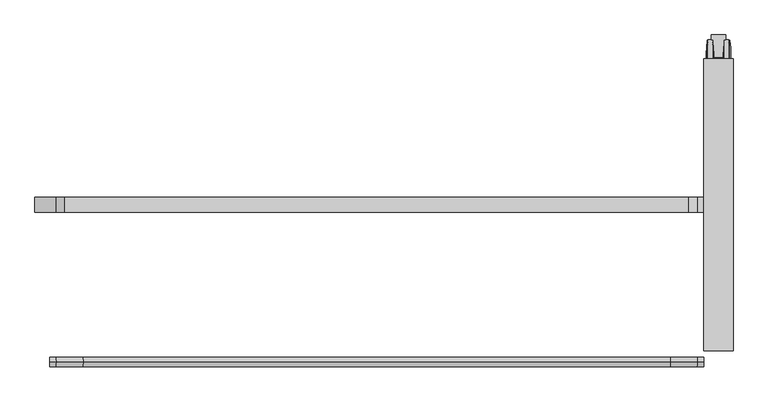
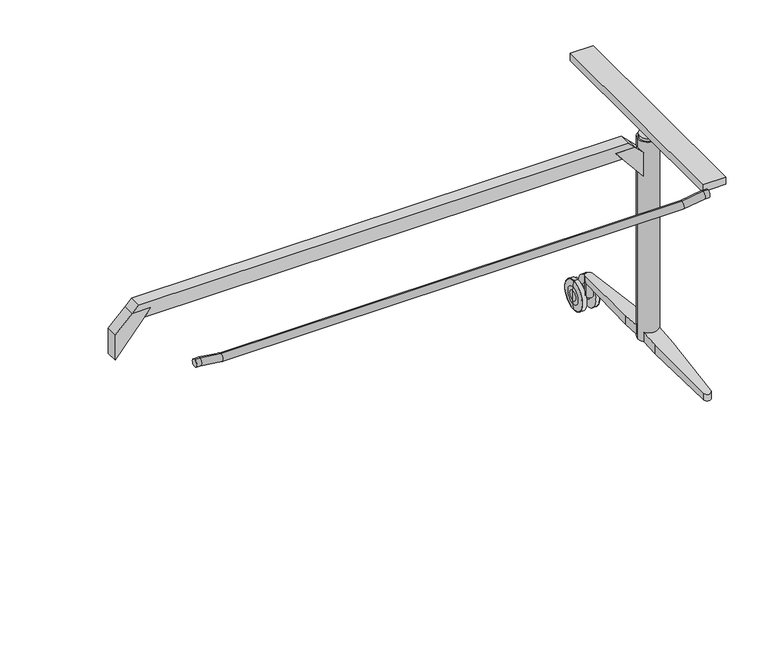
"""IFC4 building model written with IfcOpenShell, lengths in millimetres: furniture geometry, Table_Foldable_Wilkhahn_TimetableLift_Whiteboard : 1600w x 800d (615/10)."""

from ifc_helpers import new_model, si_unit, point, frame, frame_2d, origin, place, context, project, spatial, polyline, circle_curve, ellipse_curve, trimmed, segment, composite_curve, outline, extrude, source, transform, mapped, element, save
from ifc_brep_helpers import plane_surface, cylinder_surface, revolved_surface, advanced_brep


def furniture_d98f3108(model_context):
    return source(origin(), model_context, "Body", "SolidModel", [
        advanced_brep(
        [(670.4530674, 420.9511544, 26.9613134), (670.4530674, 420.9511544, 53.0387194), (670.4530674, 420.9511544, 40.0000164), (672.5845915, 420.9511544, 0.8972162), (672.5845915, 420.9511544, 79.1028166), (671.0121742, 420.9511544, 63.8876748), (671.0121742, 420.9511544, 16.1123581), (683.5439759, 420.9511544, 1.43e-05), (683.5439759, 420.9511544, 80.0000185), (673.5792938, 420.9511544, 80.0000185), (673.5792938, 420.9511544, 1.43e-05), (685.4530966, 420.9511544, 20.9999281), (685.4530966, 420.9511544, 59.0001048), (685.4530966, 420.9511544, 32.3463502), (685.4530966, 420.9511544, 47.6536826), (705.3531174, 420.9511544, 32.3463502), (705.3531174, 420.9511544, 47.6536826), (705.3531174, 420.9511544, 20.9999281), (705.3531174, 420.9511544, 59.0001048), (707.2622381, 420.9511544, 1.43e-05), (707.2622381, 420.9511544, 80.0000185), (716.3249398, 420.9511544, 1.43e-05), (716.3249398, 420.9511544, 80.0000185), (719.7942336, 420.9511544, 16.1142331), (719.7942336, 420.9511544, 63.8857997), (718.3143443, 420.9511544, 78.2056147), (718.3143443, 420.9511544, 1.7944182), (720.3531466, 420.9511544, 40.0000164), (720.3531466, 420.9511544, 53.0406045), (720.3531466, 420.9511544, 26.9594284)],
        [
            (0, 1, circle_curve(frame((670.4530674, 420.9511544, 40.0000164), z_axis=(-1.0, 0.0, 0.0), x_axis=(0.0, 0.0, 1.0)), 13.038703)),
            (1, 2),
            (2, 0),
            (1, 0, circle_curve(frame((670.4530674, 420.9511544, 40.0000164), z_axis=(-1.0, 0.0, 0.0), x_axis=(0.0, 0.0, 1.0)), 13.038703)),
            (3, 4, circle_curve(frame((672.5845915, 420.9511544, 40.0000164), z_axis=(-1.0, 0.0, 0.0), x_axis=(0.0, 0.0, 1.0)), 39.1028002)),
            (4, 5),
            (5, 6, circle_curve(frame((671.0121742, 420.9511544, 40.0000164), z_axis=(1.0, 0.0, 0.0), x_axis=(0.0, 0.0, 1.0)), 23.8876584)),
            (6, 3),
            (4, 3, circle_curve(frame((672.5845915, 420.9511544, 40.0000164), z_axis=(-1.0, 0.0, 0.0), x_axis=(0.0, 0.0, 1.0)), 39.1028002)),
            (6, 5, circle_curve(frame((671.0121742, 420.9511544, 40.0000164), z_axis=(1.0, 0.0, 0.0), x_axis=(0.0, 0.0, 1.0)), 23.8876584)),
            (7, 8, circle_curve(frame((683.5439759, 420.9511544, 40.0000164), z_axis=(-1.0, 0.0, 0.0), x_axis=(0.0, 0.0, 1.0)), 40.0000021)),
            (8, 9),
            (9, 10, circle_curve(frame((673.5792938, 420.9511544, 40.0000164), z_axis=(1.0, 0.0, 0.0), x_axis=(0.0, 0.0, 1.0)), 40.0000021)),
            (10, 7),
            (8, 7, circle_curve(frame((683.5439759, 420.9511544, 40.0000164), z_axis=(-1.0, 0.0, 0.0), x_axis=(0.0, 0.0, 1.0)), 40.0000021)),
            (10, 9, circle_curve(frame((673.5792938, 420.9511544, 40.0000164), z_axis=(1.0, 0.0, 0.0), x_axis=(0.0, 0.0, 1.0)), 40.0000021)),
            (11, 12, circle_curve(frame((685.4530966, 420.9511544, 40.0000164), z_axis=(-1.0, 0.0, 0.0), x_axis=(0.0, 0.0, 1.0)), 19.0000883)),
            (12, 8),
            (7, 11),
            (12, 11, circle_curve(frame((685.4530966, 420.9511544, 40.0000164), z_axis=(-1.0, 0.0, 0.0), x_axis=(0.0, 0.0, 1.0)), 19.0000883)),
            (13, 14, circle_curve(frame((685.4530966, 420.9511544, 40.0000164), z_axis=(-1.0, 0.0, 0.0), x_axis=(0.0, 0.0, 1.0)), 7.6536662)),
            (14, 12),
            (11, 13),
            (14, 13, circle_curve(frame((685.4530966, 420.9511544, 40.0000164), z_axis=(-1.0, 0.0, 0.0), x_axis=(0.0, 0.0, 1.0)), 7.6536662)),
            (15, 16, circle_curve(frame((705.3531174, 420.9511544, 40.0000164), z_axis=(-1.0, 0.0, 0.0), x_axis=(0.0, 0.0, 1.0)), 7.6536662)),
            (16, 14),
            (13, 15),
            (16, 15, circle_curve(frame((705.3531174, 420.9511544, 40.0000164), z_axis=(-1.0, 0.0, 0.0), x_axis=(0.0, 0.0, 1.0)), 7.6536662)),
            (17, 18, circle_curve(frame((705.3531174, 420.9511544, 40.0000164), z_axis=(-1.0, 0.0, 0.0), x_axis=(0.0, 0.0, 1.0)), 19.0000883)),
            (18, 16),
            (15, 17),
            (18, 17, circle_curve(frame((705.3531174, 420.9511544, 40.0000164), z_axis=(-1.0, 0.0, 0.0), x_axis=(0.0, 0.0, 1.0)), 19.0000883)),
            (19, 20, circle_curve(frame((707.2622381, 420.9511544, 40.0000164), z_axis=(-1.0, 0.0, 0.0), x_axis=(0.0, 0.0, 1.0)), 40.0000021)),
            (20, 18),
            (17, 19),
            (20, 19, circle_curve(frame((707.2622381, 420.9511544, 40.0000164), z_axis=(-1.0, 0.0, 0.0), x_axis=(0.0, 0.0, 1.0)), 40.0000021)),
            (21, 22, circle_curve(frame((716.3249398, 420.9511544, 40.0000164), z_axis=(-1.0, 0.0, 0.0), x_axis=(0.0, 0.0, 1.0)), 40.0000021)),
            (22, 20),
            (19, 21),
            (22, 21, circle_curve(frame((716.3249398, 420.9511544, 40.0000164), z_axis=(-1.0, 0.0, 0.0), x_axis=(0.0, 0.0, 1.0)), 40.0000021)),
            (23, 24, circle_curve(frame((719.7942336, 420.9511544, 40.0000164), z_axis=(-1.0, 0.0, 0.0), x_axis=(0.0, 0.0, 1.0)), 23.8857833)),
            (24, 25),
            (25, 26, circle_curve(frame((718.3143443, 420.9511544, 40.0000164), z_axis=(1.0, 0.0, 0.0), x_axis=(0.0, 0.0, 1.0)), 38.2055982)),
            (26, 23),
            (24, 23, circle_curve(frame((719.7942336, 420.9511544, 40.0000164), z_axis=(-1.0, 0.0, 0.0), x_axis=(0.0, 0.0, 1.0)), 23.8857833)),
            (26, 25, circle_curve(frame((718.3143443, 420.9511544, 40.0000164), z_axis=(1.0, 0.0, 0.0), x_axis=(0.0, 0.0, 1.0)), 38.2055982)),
            (27, 28),
            (28, 29, circle_curve(frame((720.3531466, 420.9511544, 40.0000164), z_axis=(1.0, 0.0, 0.0), x_axis=(0.0, 0.0, 1.0)), 13.0405881)),
            (29, 27),
            (29, 28, circle_curve(frame((720.3531466, 420.9511544, 40.0000164), z_axis=(1.0, 0.0, 0.0), x_axis=(0.0, 0.0, 1.0)), 13.0405881)),
            (5, 1, circle_curve(frame((775.9896451, 420.9511544, 53.0387194), z_axis=(0.0, -1.0, 0.0), x_axis=(-1.0, 0.0, 0.0)), 105.5365777)),
            (0, 6, circle_curve(frame((775.9896451, 420.9511544, 26.9613134), z_axis=(0.0, -1.0, 0.0), x_axis=(-1.0, 0.0, 0.0)), 105.5365777)),
            (9, 4, circle_curve(frame((673.5792938, 420.9511544, 79.0000185), z_axis=(0.0, -1.0, 0.0), x_axis=(-1.0, 0.0, 0.0)), 1.0)),
            (3, 10, circle_curve(frame((673.5792938, 420.9511544, 1.0000143), z_axis=(0.0, -1.0, 0.0), x_axis=(-1.0, 0.0, 0.0)), 1.0)),
            (25, 22, circle_curve(frame((716.3249398, 420.9511544, 78.0000185), z_axis=(0.0, -1.0, 0.0), x_axis=(-1.0, 0.0, 0.0)), 2.0)),
            (21, 26, circle_curve(frame((716.3249398, 420.9511544, 2.0000143), z_axis=(0.0, -1.0, 0.0), x_axis=(-1.0, 0.0, 0.0)), 2.0)),
            (28, 24, circle_curve(frame((614.8531466, 420.9511544, 53.0406045), z_axis=(0.0, -1.0, 0.0), x_axis=(-1.0, 0.0, 0.0)), 105.5)),
            (23, 29, circle_curve(frame((614.8531466, 420.9511544, 26.9594284), z_axis=(0.0, -1.0, 0.0), x_axis=(-1.0, 0.0, 0.0)), 105.5)),
        ],
        [
            plane_surface(frame((670.4530674, 420.9511544, 40.0000164), z_axis=(-1.0, 0.0, 0.0), x_axis=(0.0, 0.0, 1.0))),
            revolved_surface(polyline([(671.0121742, 420.9511544, 63.8876748), (672.5845915, 420.9511544, 79.1028166)]), (736.1531192, 420.9511544, 40.0000164), (1.0, 0.0, 0.0)),
            cylinder_surface(frame((736.1531192, 420.9511544, 40.0000164), z_axis=(1.0, 0.0, 0.0), x_axis=(0.0, 0.0, 1.0)), 40.0000021),
            revolved_surface(polyline([(683.5439759, 420.9511544, 80.0000185), (685.4530966, 420.9511544, 59.0001048)]), (736.1531192, 420.9511544, 40.0000164), (1.0, 0.0, 0.0)),
            plane_surface(frame((685.4530966, 420.9511544, 40.0000164), z_axis=(1.0, 0.0, 0.0), x_axis=(0.0, 0.0, 1.0))),
            cylinder_surface(frame((736.1531192, 420.9511544, 40.0000164), z_axis=(1.0, 0.0, 0.0), x_axis=(0.0, 0.0, 1.0)), 7.6536662),
            plane_surface(frame((705.3531174, 420.9511544, 40.0000164), z_axis=(-1.0, 0.0, 0.0), x_axis=(0.0, 0.0, 1.0))),
            revolved_surface(polyline([(705.3531174, 420.9511544, 59.0001048), (707.2622381, 420.9511544, 80.0000185)]), (736.1531192, 420.9511544, 40.0000164), (1.0, 0.0, 0.0)),
            revolved_surface(polyline([(718.3143443, 420.9511544, 78.2056147), (719.7942336, 420.9511544, 63.8857997)]), (736.1531192, 420.9511544, 40.0000164), (1.0, 0.0, 0.0)),
            plane_surface(frame((720.3531466, 420.9511544, 40.0000164), z_axis=(1.0, 0.0, 0.0), x_axis=(0.0, 0.0, 1.0))),
            revolved_surface(trimmed(ellipse_curve(frame((775.9896451, 420.9511544, 53.0387194), z_axis=(0.0, 1.0, 0.0), x_axis=(-1.0, 0.0, 0.0)), 105.5365777, 105.5365777), [point((670.4530674, 420.9511544, 53.0387194))], [point((671.0121742, 420.9511544, 63.8876748))], True, "CARTESIAN"), (736.1531192, 420.9511544, 40.0000164), (1.0, 0.0, 0.0)),
            revolved_surface(trimmed(ellipse_curve(frame((673.5792938, 420.9511544, 79.0000185), z_axis=(0.0, 1.0, 0.0), x_axis=(-1.0, 0.0, 0.0)), 1.0, 1.0), [point((672.5845915, 420.9511544, 79.1028166))], [point((673.5792938, 420.9511544, 80.0000185))], True, "CARTESIAN"), (736.1531192, 420.9511544, 40.0000164), (1.0, 0.0, 0.0)),
            revolved_surface(trimmed(ellipse_curve(frame((716.3249398, 420.9511544, 78.0000185), z_axis=(0.0, 1.0, 0.0), x_axis=(-1.0, 0.0, 0.0)), 2.0, 2.0), [point((716.3249398, 420.9511544, 80.0000185))], [point((718.3143443, 420.9511544, 78.2056147))], True, "CARTESIAN"), (736.1531192, 420.9511544, 40.0000164), (1.0, 0.0, 0.0)),
            revolved_surface(trimmed(ellipse_curve(frame((614.8531466, 420.9511544, 53.0406045), z_axis=(0.0, 1.0, 0.0), x_axis=(-1.0, 0.0, 0.0)), 105.5, 105.5), [point((719.7942336, 420.9511544, 63.8857997))], [point((720.3531466, 420.9511544, 53.0406045))], True, "CARTESIAN"), (736.1531192, 420.9511544, 40.0000164), (1.0, 0.0, 0.0)),
        ],
        [
            (0, [[1, 2, 3]]),
            (0, [[4, -3, -2]]),
            (1, [[5, 6, 7, 8]]),
            (1, [[9, -8, 10, -6]]),
            (2, [[11, 12, 13, 14]]),
            (2, [[15, -14, 16, -12]]),
            (3, [[17, 18, -11, 19]]),
            (3, [[20, -19, -15, -18]]),
            (4, [[21, 22, -17, 23]]),
            (4, [[24, -23, -20, -22]]),
            (5, [[25, 26, -21, 27]]),
            (5, [[28, -27, -24, -26]]),
            (6, [[29, 30, -25, 31]]),
            (6, [[32, -31, -28, -30]]),
            (7, [[33, 34, -29, 35]]),
            (7, [[36, -35, -32, -34]]),
            (2, [[37, 38, -33, 39]]),
            (2, [[40, -39, -36, -38]]),
            (8, [[41, 42, 43, 44]]),
            (8, [[45, -44, 46, -42]]),
            (9, [[47, 48, 49]]),
            (9, [[-49, 50, -47]]),
            (10, [[-7, 51, -1, 52]]),
            (10, [[-10, -52, -4, -51]]),
            (11, [[-13, 53, -5, 54]]),
            (11, [[-16, -54, -9, -53]]),
            (12, [[-43, 55, -37, 56]]),
            (12, [[-46, -56, -40, -55]]),
            (13, [[-48, 57, -41, 58]]),
            (13, [[-50, -58, -45, -57]]),
        ],
    ),
        advanced_brep(
        [(715.0000252, 110.1174444, 100.5064747), (715.0000252, 110.1174444, 125.9916346), (715.0000252, 48.667977, 121.299221), (715.0000252, 48.667977, 97.6104428), (675.0000252, 110.1174444, 125.9916346), (675.0000252, 110.1174444, 100.5064747), (675.0000252, 60.8207913, 98.1831888), (675.0000252, 60.8207913, 122.227236), (705.3449615, -138.0675149, 88.8098467), (685.2789925, -138.0675149, 88.8098467), (685.3284401, -139.0242798, 106.9666363), (705.2954923, -139.0242831, 106.9666361), (705.2954923, -139.0242831, 88.8098467), (685.3284401, -139.0242798, 88.8098467)],
        [
            (0, 1),
            (1, 2),
            (2, 3),
            (3, 0),
            (4, 5),
            (5, 6),
            (6, 7),
            (7, 4),
            (5, 0),
            (3, 8),
            (8, 9),
            (9, 6),
            (1, 4),
            (7, 10),
            (10, 11, ellipse_curve(frame((695.3119663, -138.4505156, 107.0104502), z_axis=(0.0, -0.07614048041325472, 0.9970971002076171), x_axis=(0.0, -0.997097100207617, -0.07614048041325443)), 10.0291135, 10.0)),
            (11, 2),
            (8, 12),
            (12, 13, circle_curve(frame((695.3119663, -138.4505156, 88.8098467), z_axis=(0.0, 0.0, -1.0), x_axis=(-1.0, 0.0, 0.0)), 10.0)),
            (13, 9),
            (13, 10),
            (12, 11),
        ],
        [
            plane_surface(frame((715.0000252, 110.1174444, 100.5064747), z_axis=(1.0, 0.0, 0.0), x_axis=(0.0, 0.9988912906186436, 0.04707642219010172))),
            plane_surface(frame((675.0000252, 110.1174444, 100.5064747), z_axis=(-1.0, 0.0, 0.0), x_axis=(0.0, -0.9988912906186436, -0.04707642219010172))),
            plane_surface(frame((715.0000252, -138.0675149, 88.8098467), z_axis=(0.0, 0.04707642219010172, -0.9988912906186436), x_axis=(-1.0, 0.0, 0.0))),
            plane_surface(frame((715.0000252, 110.1174444, 125.9916346), z_axis=(0.0, -0.07614048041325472, 0.9970971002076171), x_axis=(-1.0, 0.0, 0.0))),
            plane_surface(frame((715.0000252, -149.5346363, 88.8098467), z_axis=(0.0, 0.0, -1.0), x_axis=(-1.0, 0.0, 0.0))),
            plane_surface(frame((685.3284401, -139.0242798, 234.8098558), z_axis=(-0.9986671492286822, -0.05161322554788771, 0.0), x_axis=(0.0, 0.0, -1.0))),
            cylinder_surface(frame((695.3119663, -138.4505156, -14.1901527), z_axis=(0.0, 0.0, -1.0), x_axis=(-1.0, 0.0, 0.0)), 10.0),
            plane_surface(frame((718.1772387, 110.1174444, 234.8098558), z_axis=(0.9986659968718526, -0.05163551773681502, 0.0), x_axis=(0.0, 0.0, -1.0))),
            plane_surface(frame((715.0000252, 110.1174444, 100.5064747), z_axis=(0.0, 1.0, 0.0), x_axis=(-1.0, 0.0, 0.0))),
        ],
        [
            (0, [[1, 2, 3, 4]]),
            (1, [[5, 6, 7, 8]]),
            (2, [[9, -4, 10, 11, 12, -6]]),
            (3, [[13, -8, 14, 15, 16, -2]]),
            (4, [[-11, 17, 18, 19]]),
            (5, [[20, -14, -7, -12, -19]]),
            (6, [[-20, -18, 21, -15]]),
            (7, [[-21, -17, -10, -3, -16]]),
            (8, [[-1, -9, -5, -13]]),
        ],
    ),
        advanced_brep(
        [(715.0000252, 141.7848644, 125.5064747), (715.0000252, 141.7848644, 100.5064747), (715.0000252, 203.2343319, 97.6104428), (715.0000252, 203.2343319, 120.860673), (675.0000252, 141.7848644, 100.5064747), (675.0000252, 141.7848644, 125.5064747), (675.0000252, 191.0815176, 121.7794696), (675.0000252, 191.0815176, 98.1831888), (685.2789925, 389.9698238, 88.8098467), (705.3449615, 389.9698238, 88.8098467), (705.2954923, 390.926592, 106.6704598), (685.3284401, 390.9265887, 106.6704601), (685.3284401, 390.9265887, 88.8098467), (705.2954923, 390.926592, 88.8098467)],
        [
            (0, 1),
            (1, 2),
            (2, 3),
            (3, 0),
            (4, 5),
            (5, 6),
            (6, 7),
            (7, 4),
            (1, 4),
            (7, 8),
            (8, 9),
            (9, 2),
            (0, 5),
            (3, 10),
            (10, 11, ellipse_curve(frame((695.3119663, 390.3528245, 106.7138387), z_axis=(0.0, 0.07538846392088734, 0.9971542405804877), x_axis=(0.0, 0.9971542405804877, -0.07538846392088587)), 10.0285388, 10.0)),
            (11, 6),
            (8, 12),
            (12, 13, circle_curve(frame((695.3119663, 390.3528245, 88.8098467), z_axis=(0.0, 0.0, -1.0), x_axis=(-1.0, 0.0, 0.0)), 10.0)),
            (13, 9),
            (11, 12),
            (10, 13),
        ],
        [
            plane_surface(frame((715.0000252, 110.1174444, 100.5064747), z_axis=(1.0, 0.0, 0.0), x_axis=(0.0, 0.9988912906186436, 0.04707642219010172))),
            plane_surface(frame((675.0000252, 110.1174444, 100.5064747), z_axis=(-1.0, 0.0, 0.0), x_axis=(0.0, -0.9988912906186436, -0.04707642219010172))),
            plane_surface(frame((715.0000252, 141.7848644, 100.5064747), z_axis=(0.0, -0.04707642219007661, -0.9988912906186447), x_axis=(-1.0, 0.0, 0.0))),
            plane_surface(frame((715.0000252, 141.7848644, 125.5064747), z_axis=(0.0, -1.0, 0.0), x_axis=(-1.0, 0.0, 0.0))),
            plane_surface(frame((715.0000252, 401.4369452, 105.8758392), z_axis=(0.0, 0.07538846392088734, 0.9971542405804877), x_axis=(-1.0, 0.0, 0.0))),
            plane_surface(frame((715.0000252, 389.9698238, 88.8098467), z_axis=(0.0, 0.0, -1.0), x_axis=(-1.0, 0.0, 0.0))),
            plane_surface(frame((672.5013837, 142.7351655, 234.8098558), z_axis=(-0.9986671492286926, 0.05161322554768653, 0.0), x_axis=(0.0, 0.0, -1.0))),
            cylinder_surface(frame((695.3119663, 390.3528245, -14.1901527), z_axis=(0.0, 0.0, -1.0), x_axis=(-1.0, 0.0, 0.0)), 10.0),
            plane_surface(frame((705.2954923, 390.926592, 234.8098558), z_axis=(0.9986659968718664, 0.05163551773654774, 0.0), x_axis=(0.0, 0.0, -1.0))),
        ],
        [
            (0, [[1, 2, 3, 4]]),
            (1, [[5, 6, 7, 8]]),
            (2, [[9, -8, 10, 11, 12, -2]]),
            (3, [[-1, 13, -5, -9]]),
            (4, [[-13, -4, 14, 15, 16, -6]]),
            (5, [[-11, 17, 18, 19]]),
            (6, [[20, -17, -10, -7, -16]]),
            (7, [[-20, -15, 21, -18]]),
            (8, [[-21, -14, -3, -12, -19]]),
        ],
    ),
        extrude(outline(composite_curve([segment(trimmed(circle_curve(frame_2d((695.0000252, 125.9511544)), 22.0748856), [point((717.0749108, 125.9511544))], [point((672.9251395, 125.9511544))], False, "CARTESIAN"), True, "CONTINUOUS"), segment(trimmed(circle_curve(frame_2d((695.0000252, 125.9511544)), 22.0748856), [point((672.9251395, 125.9511544))], [point((717.0749108, 125.9511544))], False, "CARTESIAN"), True, "CONTINUOUS")], self_intersect=False)), frame((0.0, 0.0, 648.5142032), z_axis=(0.0, 0.0, 1.0), x_axis=(1.0, 0.0, 0.0)), (0.0, 0.0, 1.0), 7.7231854),
        extrude(outline(polyline([(46.8012701, 709.9796901), (46.8012701, 680.8589951), (33.7579803, 683.5602115), (33.7579803, 707.2784737), (46.8012701, 709.9796901)])), frame((0.0, 420.9511544, 0.0), z_axis=(0.0, 1.0, 0.0), x_axis=(0.0, 0.0, 1.0)), (0.0, 0.0, 1.0), 50.0),
        extrude(outline(composite_curve([segment(trimmed(circle_curve(frame_2d((695.0000252, 125.9511544)), 21.8066495), [point((716.8066747, 125.9511544))], [point((673.1933756, 125.9511544))], False, "CARTESIAN"), True, "CONTINUOUS"), segment(trimmed(circle_curve(frame_2d((695.0000252, 125.9511544)), 21.8066495), [point((673.1933756, 125.9511544))], [point((716.8066747, 125.9511544))], False, "CARTESIAN"), True, "CONTINUOUS")], self_intersect=False)), frame((0.0, 0.0, 672.2302641), z_axis=(0.0, 0.0, 1.0), x_axis=(1.0, 0.0, 0.0)), (0.0, 0.0, 1.0), 12.7697121),
        extrude(outline(composite_curve([segment(trimmed(circle_curve(frame_2d((695.5388896, 390.7419216)), 9.5), [point((705.0388896, 390.7419216))], [point((686.0388896, 390.7419216))], False, "CARTESIAN"), True, "CONTINUOUS"), segment(trimmed(circle_curve(frame_2d((695.5388896, 390.7419216)), 9.5), [point((686.0388896, 390.7419216))], [point((705.0388896, 390.7419216))], False, "CARTESIAN"), True, "CONTINUOUS")], self_intersect=False)), frame((0.0, 0.0, 50.0000143), z_axis=(0.0, 0.0, 1.0), x_axis=(1.0, 0.0, 0.0)), (0.0, 0.0, 1.0), 38.8098324),
        extrude(outline(composite_curve([segment(trimmed(circle_curve(frame_2d((695.0, 125.9511544)), 26.0), [point((721.0, 125.9511544))], [point((669.0, 125.9511544))], False, "CARTESIAN"), True, "CONTINUOUS"), segment(trimmed(circle_curve(frame_2d((695.0, 125.9511544)), 26.0), [point((669.0, 125.9511544))], [point((721.0, 125.9511544))], False, "CARTESIAN"), True, "CONTINUOUS")], self_intersect=False)), frame((0.0, 0.0, 100.2652558), z_axis=(0.0, 0.0, 1.0), x_axis=(1.0, 0.0, 0.0)), (0.0, 0.0, 1.0), 548.2489474),
        extrude(outline(polyline([(659.9544603, -634.0633969), (642.2767908, -651.7410664), (642.2767908, -601.7410664), (621.0635874, -619.2634425), (621.0635874, 619.2634425), (642.2767908, 601.7410664), (642.2767908, 651.7410664), (659.9544603, 634.0633969), (659.9544603, -634.0633969)])), frame((0.0, 109.7857178, 0.0), z_axis=(0.0, 1.0, 0.0), x_axis=(0.0, 0.0, 1.0)), (0.0, 0.0, 1.0), 31.1654367),
        extrude(outline(polyline([(599.7944959, 694.2233613), (642.2767908, 651.7410664), (642.2767908, 601.7410664), (530.3144788, 694.2233613), (599.7944959, 694.2233613)])), frame((0.0, 109.7857178, 0.0), z_axis=(0.0, 1.0, 0.0), x_axis=(0.0, 0.0, 1.0)), (0.0, 0.0, 1.0), 31.1654367),
        extrude(outline(polyline([(599.0178177, -695.0000395), (529.3742049, -695.0000395), (642.2767908, -601.7410664), (642.2767908, -651.7410664), (599.0178177, -695.0000395)])), frame((0.0, 109.7857178, 0.0), z_axis=(0.0, 1.0, 0.0), x_axis=(0.0, 0.0, 1.0)), (0.0, 0.0, 1.0), 31.1654367),
        extrude(outline(polyline([(665.0000395, 422.9511544), (725.0000109, 422.9511544), (725.0000109, -171.0488456), (665.0000395, -171.0488456), (665.0000395, 422.9511544)])), frame((0.0, 0.0, 684.9999762), z_axis=(0.0, 0.0, 1.0), x_axis=(1.0, 0.0, 0.0)), (0.0, 0.0, 1.0), 20.0000238),
        advanced_brep(
        [(-665.0000395, -194.1884095, 705.4672388), (-665.0000395, -194.1884095, 685.4672388), (665.0000395, -194.1884095, 705.4672388), (665.0000395, -194.1884095, 685.4672388), (-652.0892263, -194.1884095, 705.4672388), (-653.5361626, -194.1884095, 685.4672388), (-597.0892404, -194.1884095, 697.4672184), (-598.5361767, -194.1884095, 677.4672184), (597.089229, -194.1884095, 697.4672184), (598.5361653, -194.1884095, 677.4672184), (652.0892149, -194.1884095, 705.4672388), (653.5361512, -194.1884095, 685.4672388)],
        [
            (0, 1, circle_curve(frame((-665.0000395, -194.1884095, 695.4672388), z_axis=(-1.0, 0.0, 0.0), x_axis=(0.0, 0.0, -1.0)), 10.0)),
            (1, 0, circle_curve(frame((-665.0000395, -194.1884095, 695.4672388), z_axis=(-1.0, 0.0, 0.0), x_axis=(0.0, 0.0, -1.0)), 10.0)),
            (2, 3, circle_curve(frame((665.0000395, -194.1884095, 695.4672388), z_axis=(1.0, 0.0, 0.0), x_axis=(0.0, 0.0, -1.0)), 10.0)),
            (3, 2, circle_curve(frame((665.0000395, -194.1884095, 695.4672388), z_axis=(1.0, 0.0, 0.0), x_axis=(0.0, 0.0, -1.0)), 10.0)),
            (0, 4),
            (4, 5, ellipse_curve(frame((-652.8126945, -194.1884095, 695.4672388), z_axis=(-0.9973931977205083, 0.0, 0.07215822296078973), x_axis=(-0.07215822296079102, 0.0, -0.9973931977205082)), 10.0261362, 10.0)),
            (5, 1),
            (5, 4, ellipse_curve(frame((-652.8126945, -194.1884095, 695.4672388), z_axis=(-0.9973931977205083, 0.0, 0.07215822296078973), x_axis=(-0.07215822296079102, 0.0, -0.9973931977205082)), 10.0261362, 10.0)),
            (4, 6),
            (6, 7, ellipse_curve(frame((-597.8127086, -194.1884095, 687.4672184), z_axis=(-0.9973931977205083, 0.0, 0.07215822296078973), x_axis=(0.0721582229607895, 0.0, 0.9973931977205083)), 10.0261362, 10.0)),
            (7, 5),
            (7, 6, ellipse_curve(frame((-597.8127086, -194.1884095, 687.4672184), z_axis=(-0.9973931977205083, 0.0, 0.07215822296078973), x_axis=(0.0721582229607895, 0.0, 0.9973931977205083)), 10.0261362, 10.0)),
            (6, 8),
            (8, 9, ellipse_curve(frame((597.8126971, -194.1884095, 687.4672184), z_axis=(-0.9973931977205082, 0.0, -0.07215822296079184), x_axis=(-0.072158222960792, 0.0, 0.9973931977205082)), 10.0261362, 10.0)),
            (9, 7),
            (9, 8, ellipse_curve(frame((597.8126971, -194.1884095, 687.4672184), z_axis=(-0.9973931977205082, 0.0, -0.07215822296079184), x_axis=(-0.072158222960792, 0.0, 0.9973931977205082)), 10.0261362, 10.0)),
            (8, 10),
            (10, 11, ellipse_curve(frame((652.812683, -194.1884095, 695.4672388), z_axis=(-0.9973931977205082, 0.0, -0.07215822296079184), x_axis=(0.07215822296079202, 0.0, -0.9973931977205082)), 10.0261362, 10.0)),
            (11, 9),
            (11, 10, ellipse_curve(frame((652.812683, -194.1884095, 695.4672388), z_axis=(-0.9973931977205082, 0.0, -0.07215822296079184), x_axis=(0.07215822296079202, 0.0, -0.9973931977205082)), 10.0261362, 10.0)),
            (10, 2),
            (3, 11),
        ],
        [
            plane_surface(frame((-665.0000395, -274.0488456, 665.2336856), z_axis=(-1.0, 0.0, 0.0), x_axis=(0.0, 1.0, 0.0))),
            plane_surface(frame((665.0000395, -274.0488456, 665.2336856), z_axis=(1.0, 0.0, 0.0), x_axis=(0.0, 1.0, 0.0))),
            cylinder_surface(frame((-665.0000395, -194.1884095, 695.4672388), z_axis=(-1.0, 0.0, 0.0), x_axis=(0.0, 0.0, -1.0)), 10.0),
            cylinder_surface(frame((-650.6481708, -194.1884095, 695.1523982), z_axis=(-0.989586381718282, 0.0, 0.14394024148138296), x_axis=(-0.14394024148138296, 0.0, -0.989586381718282)), 10.0),
            cylinder_surface(frame((-600.0000099, -194.1884095, 687.4672184), z_axis=(-1.0, 0.0, 0.0), x_axis=(0.0, 0.0, -1.0)), 10.0),
            cylinder_surface(frame((595.6481735, -194.1884095, 687.1523777), z_axis=(-0.9895863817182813, 0.0, -0.14394024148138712), x_axis=(0.14394024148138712, 0.0, -0.9895863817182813)), 10.0),
            cylinder_surface(frame((654.9999844, -194.1884095, 695.4672388), z_axis=(-1.0, 0.0, 0.0), x_axis=(0.0, 0.0, -1.0)), 10.0),
        ],
        [
            (0, [[1, 2]]),
            (1, [[3, 4]]),
            (2, [[-1, 5, 6, 7]]),
            (2, [[-2, -7, 8, -5]]),
            (3, [[-6, 9, 10, 11]]),
            (3, [[-8, -11, 12, -9]]),
            (4, [[-10, 13, 14, 15]]),
            (4, [[-12, -15, 16, -13]]),
            (5, [[-14, 17, 18, 19]]),
            (5, [[-16, -19, 20, -17]]),
            (6, [[-18, 21, -4, 22]]),
            (6, [[-20, -22, -3, -21]]),
        ],
    ),
    ])


if __name__ == "__main__":
    model = new_model("IFC4")
    model_context = context("Model", 3, world=origin())
    ifc_project = project(units=[si_unit("LENGTHUNIT", "METRE", prefix="MILLI")], contexts=[model_context])
    site = spatial("IfcSite", under=ifc_project)
    building = spatial("IfcBuilding", under=site)
    placement = place(None, origin())
    furniture_shape = furniture_d98f3108(model_context)
    element("IfcFurniture", 1, ObjectType="Table_Foldable_Wilkhahn_TimetableLift_Whiteboard : 1600w x 800d (615/10)", at=placement, inside=building, context=model_context, shape_type="MappedRepresentation", body=[
        mapped(furniture_shape, transform((0.0, 0.0, 0.0), x_axis=(1.0, 0.0, 0.0), y_axis=(0.0, 1.0, 0.0), z_axis=(0.0, 0.0, 1.0))),
    ])
    save(model, "model.ifc")
